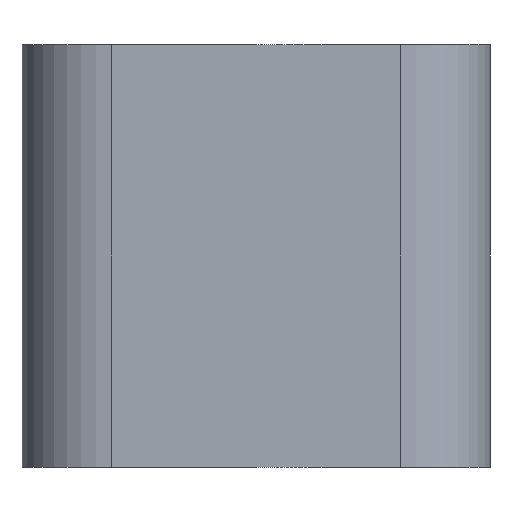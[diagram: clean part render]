
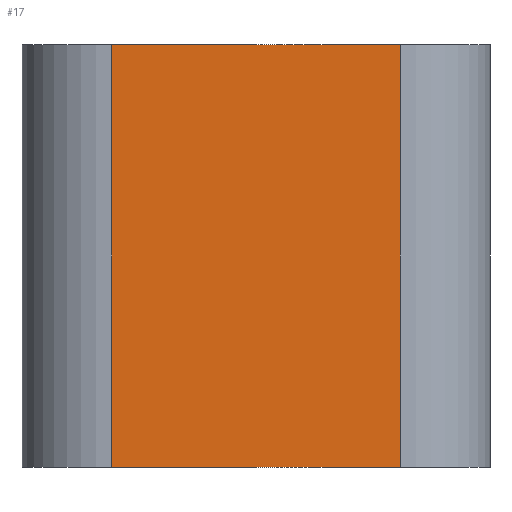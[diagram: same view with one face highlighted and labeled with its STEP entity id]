
A CAD part, left-side view. The second image highlights one B-rep face of the part: STEP entity #17.
In plain terms, the highlighted planar face has unit normal (-1, 0, 0).
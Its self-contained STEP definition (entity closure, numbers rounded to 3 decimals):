
#17 = ADVANCED_FACE('',(#18),#32,.F.);
#18 = FACE_BOUND('',#19,.F.);
#19 = EDGE_LOOP('',(#20,#55,#83,#111));
#20 = ORIENTED_EDGE('',*,*,#21,.F.);
#21 = EDGE_CURVE('',#22,#24,#26,.T.);
#22 = VERTEX_POINT('',#23);
#23 = CARTESIAN_POINT('',(13.3,11.7,-3.5));
#24 = VERTEX_POINT('',#25);
#25 = CARTESIAN_POINT('',(13.3,13.3,-3.5));
#26 = SURFACE_CURVE('',#27,(#31,#43),.PCURVE_S1.);
#27 = LINE('',#28,#29);
#28 = CARTESIAN_POINT('',(13.3,11.2,-3.5));
#29 = VECTOR('',#30,1.);
#30 = DIRECTION('',(0.,1.,0.));
#31 = PCURVE('',#32,#37);
#32 = PLANE('',#33);
#33 = AXIS2_PLACEMENT_3D('',#34,#35,#36);
#34 = CARTESIAN_POINT('',(13.3,11.2,-5.85));
#35 = DIRECTION('',(1.,0.,0.));
#36 = DIRECTION('',(0.,0.,1.));
#37 = DEFINITIONAL_REPRESENTATION('',(#38),#42);
#38 = LINE('',#39,#40);
#39 = CARTESIAN_POINT('',(2.35,0.));
#40 = VECTOR('',#41,1.);
#41 = DIRECTION('',(0.,-1.));
#42 = ( GEOMETRIC_REPRESENTATION_CONTEXT(2) 
PARAMETRIC_REPRESENTATION_CONTEXT() REPRESENTATION_CONTEXT('2D SPACE',''
  ) );
#43 = PCURVE('',#44,#49);
#44 = PLANE('',#45);
#45 = AXIS2_PLACEMENT_3D('',#46,#47,#48);
#46 = CARTESIAN_POINT('',(13.3,11.2,-3.5));
#47 = DIRECTION('',(0.,0.,1.));
#48 = DIRECTION('',(1.,0.,0.));
#49 = DEFINITIONAL_REPRESENTATION('',(#50),#54);
#50 = LINE('',#51,#52);
#51 = CARTESIAN_POINT('',(0.,0.));
#52 = VECTOR('',#53,1.);
#53 = DIRECTION('',(0.,1.));
#54 = ( GEOMETRIC_REPRESENTATION_CONTEXT(2) 
PARAMETRIC_REPRESENTATION_CONTEXT() REPRESENTATION_CONTEXT('2D SPACE',''
  ) );
#55 = ORIENTED_EDGE('',*,*,#56,.F.);
#56 = EDGE_CURVE('',#57,#22,#59,.T.);
#57 = VERTEX_POINT('',#58);
#58 = CARTESIAN_POINT('',(13.3,11.7,-5.85));
#59 = SURFACE_CURVE('',#60,(#64,#71),.PCURVE_S1.);
#60 = LINE('',#61,#62);
#61 = CARTESIAN_POINT('',(13.3,11.7,-5.85));
#62 = VECTOR('',#63,1.);
#63 = DIRECTION('',(0.,0.,1.));
#64 = PCURVE('',#32,#65);
#65 = DEFINITIONAL_REPRESENTATION('',(#66),#70);
#66 = LINE('',#67,#68);
#67 = CARTESIAN_POINT('',(0.,-0.5));
#68 = VECTOR('',#69,1.);
#69 = DIRECTION('',(1.,0.));
#70 = ( GEOMETRIC_REPRESENTATION_CONTEXT(2) 
PARAMETRIC_REPRESENTATION_CONTEXT() REPRESENTATION_CONTEXT('2D SPACE',''
  ) );
#71 = PCURVE('',#72,#77);
#72 = CYLINDRICAL_SURFACE('',#73,0.5);
#73 = AXIS2_PLACEMENT_3D('',#74,#75,#76);
#74 = CARTESIAN_POINT('',(13.8,11.7,-5.85));
#75 = DIRECTION('',(0.,0.,1.));
#76 = DIRECTION('',(-1.,-0.,0.));
#77 = DEFINITIONAL_REPRESENTATION('',(#78),#82);
#78 = LINE('',#79,#80);
#79 = CARTESIAN_POINT('',(0.,0.));
#80 = VECTOR('',#81,1.);
#81 = DIRECTION('',(0.,1.));
#82 = ( GEOMETRIC_REPRESENTATION_CONTEXT(2) 
PARAMETRIC_REPRESENTATION_CONTEXT() REPRESENTATION_CONTEXT('2D SPACE',''
  ) );
#83 = ORIENTED_EDGE('',*,*,#84,.T.);
#84 = EDGE_CURVE('',#57,#85,#87,.T.);
#85 = VERTEX_POINT('',#86);
#86 = CARTESIAN_POINT('',(13.3,13.3,-5.85));
#87 = SURFACE_CURVE('',#88,(#92,#99),.PCURVE_S1.);
#88 = LINE('',#89,#90);
#89 = CARTESIAN_POINT('',(13.3,11.2,-5.85));
#90 = VECTOR('',#91,1.);
#91 = DIRECTION('',(0.,1.,0.));
#92 = PCURVE('',#32,#93);
#93 = DEFINITIONAL_REPRESENTATION('',(#94),#98);
#94 = LINE('',#95,#96);
#95 = CARTESIAN_POINT('',(0.,0.));
#96 = VECTOR('',#97,1.);
#97 = DIRECTION('',(0.,-1.));
#98 = ( GEOMETRIC_REPRESENTATION_CONTEXT(2) 
PARAMETRIC_REPRESENTATION_CONTEXT() REPRESENTATION_CONTEXT('2D SPACE',''
  ) );
#99 = PCURVE('',#100,#105);
#100 = PLANE('',#101);
#101 = AXIS2_PLACEMENT_3D('',#102,#103,#104);
#102 = CARTESIAN_POINT('',(13.3,11.2,-5.85));
#103 = DIRECTION('',(0.,0.,1.));
#104 = DIRECTION('',(1.,0.,0.));
#105 = DEFINITIONAL_REPRESENTATION('',(#106),#110);
#106 = LINE('',#107,#108);
#107 = CARTESIAN_POINT('',(0.,0.));
#108 = VECTOR('',#109,1.);
#109 = DIRECTION('',(0.,1.));
#110 = ( GEOMETRIC_REPRESENTATION_CONTEXT(2) 
PARAMETRIC_REPRESENTATION_CONTEXT() REPRESENTATION_CONTEXT('2D SPACE',''
  ) );
#111 = ORIENTED_EDGE('',*,*,#112,.T.);
#112 = EDGE_CURVE('',#85,#24,#113,.T.);
#113 = SURFACE_CURVE('',#114,(#118,#125),.PCURVE_S1.);
#114 = LINE('',#115,#116);
#115 = CARTESIAN_POINT('',(13.3,13.3,-5.85));
#116 = VECTOR('',#117,1.);
#117 = DIRECTION('',(0.,0.,1.));
#118 = PCURVE('',#32,#119);
#119 = DEFINITIONAL_REPRESENTATION('',(#120),#124);
#120 = LINE('',#121,#122);
#121 = CARTESIAN_POINT('',(0.,-2.1));
#122 = VECTOR('',#123,1.);
#123 = DIRECTION('',(1.,0.));
#124 = ( GEOMETRIC_REPRESENTATION_CONTEXT(2) 
PARAMETRIC_REPRESENTATION_CONTEXT() REPRESENTATION_CONTEXT('2D SPACE',''
  ) );
#125 = PCURVE('',#126,#131);
#126 = CYLINDRICAL_SURFACE('',#127,0.5);
#127 = AXIS2_PLACEMENT_3D('',#128,#129,#130);
#128 = CARTESIAN_POINT('',(13.8,13.3,-5.85));
#129 = DIRECTION('',(0.,0.,1.));
#130 = DIRECTION('',(-1.,-0.,0.));
#131 = DEFINITIONAL_REPRESENTATION('',(#132),#136);
#132 = LINE('',#133,#134);
#133 = CARTESIAN_POINT('',(-0.,0.));
#134 = VECTOR('',#135,1.);
#135 = DIRECTION('',(-0.,1.));
#136 = ( GEOMETRIC_REPRESENTATION_CONTEXT(2) 
PARAMETRIC_REPRESENTATION_CONTEXT() REPRESENTATION_CONTEXT('2D SPACE',''
  ) );
